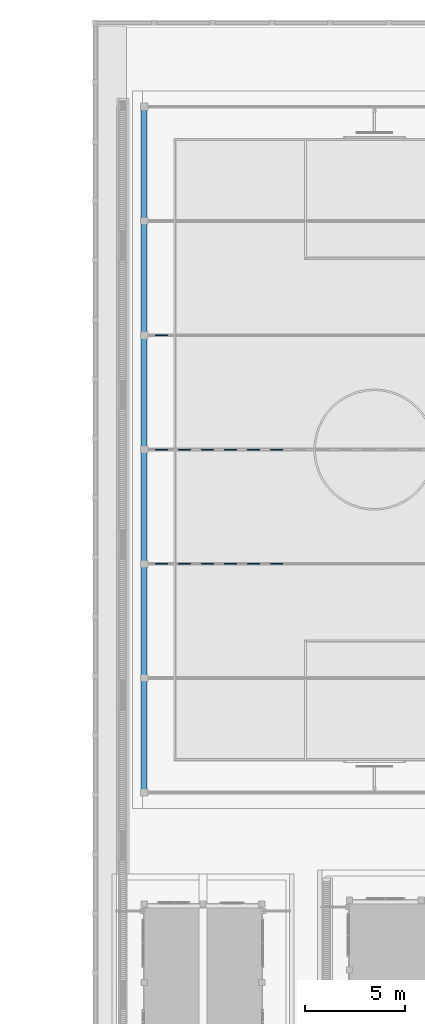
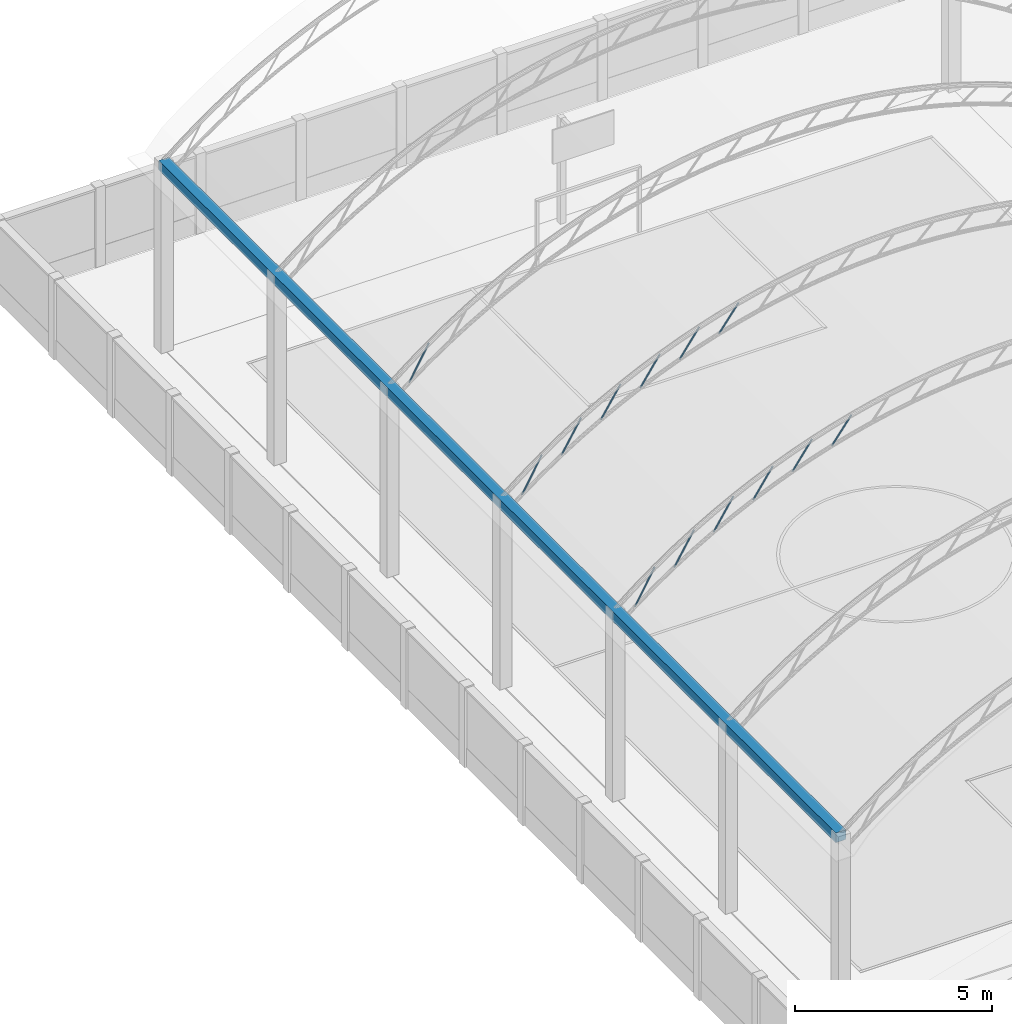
# One storey, part 19 of 151: 14 beams.
"""IFC2X3 building model written with IfcOpenShell, lengths in metres."""

from ifc_helpers import new_model, si_unit, origin, origin_with_axes, place, context, subcontext, project, spatial, faceted_brep, element, save


model = new_model("IFC2X3")

# Units and contexts
model_context = context("Model", 3, precision=1e-05, world=origin_with_axes())
body_context = subcontext(model_context, "Body", "Model", "MODEL_VIEW")
ifc_project = project(units=[si_unit("LENGTHUNIT", "METRE"), si_unit("AREAUNIT", "SQUARE_METRE"), si_unit("VOLUMEUNIT", "CUBIC_METRE"), si_unit("PLANEANGLEUNIT", "RADIAN")], contexts=[model_context])

# Site, building, storey
site_placement = place(None, origin_with_axes())
site = spatial("IfcSite", under=ifc_project, at=site_placement, Name="Predio Los Mangos - Morales, San Martín", CompositionType="ELEMENT")
building_placement = place(site_placement, origin())
building = spatial("IfcBuilding", under=site, at=building_placement, Name="Hogar de Refugio Temporal", CompositionType="ELEMENT")
storey_placement = place(building_placement, origin())
storey = spatial("IfcBuildingStorey", under=building, at=storey_placement, Name="NIVEL 1 (NPT +0.00)", CompositionType="ELEMENT", Elevation=0.0)

# Beams
beam_1_placement = place(storey_placement, origin())
element("IfcBeam", 1, at=beam_1_placement, inside=storey, Name="diag", ObjectType="Viga", context=body_context, shape_type="Brep", body=[
    faceted_brep([(4.0666, 104.0883, 5.8202), (4.6441, 104.0883, 6.8469), (4.655, 104.0917, 6.8408), (4.0775, 104.0917, 5.8141), (4.0586, 104.0792, 5.8247), (4.6361, 104.0792, 6.8514), (4.0557, 104.0667, 5.8263), (4.6332, 104.0667, 6.8531), (4.0586, 104.0542, 5.8247), (4.6361, 104.0542, 6.8514), (4.0666, 104.045, 5.8202), (4.6441, 104.045, 6.8469), (4.0775, 104.0417, 5.8141), (4.655, 104.0417, 6.8408), (4.0884, 104.045, 5.808), (4.6659, 104.045, 6.8347), (4.0964, 104.0542, 5.8035), (4.6739, 104.0542, 6.8302), (4.0993, 104.0667, 5.8018), (4.6768, 104.0667, 6.8286), (4.0964, 104.0792, 5.8035), (4.6739, 104.0792, 6.8302), (4.0884, 104.0883, 5.808), (4.6659, 104.0883, 6.8347), (4.0756, 104.0704, 5.8151), (4.0775, 104.071, 5.8141), (4.655, 104.071, 6.8408), (4.6531, 104.0704, 6.8419), (4.0743, 104.0688, 5.8159), (4.6518, 104.0688, 6.8426), (4.0738, 104.0667, 5.8162), (4.6513, 104.0667, 6.8429), (4.0743, 104.0645, 5.8159), (4.6518, 104.0645, 6.8426), (4.0756, 104.0629, 5.8151), (4.6531, 104.0629, 6.8419), (4.0775, 104.0624, 5.8141), (4.655, 104.0624, 6.8408), (4.0794, 104.0629, 5.813), (4.6569, 104.0629, 6.8398), (4.0807, 104.0645, 5.8123), (4.6582, 104.0645, 6.839), (4.0812, 104.0667, 5.812), (4.6587, 104.0667, 6.8387), (4.0807, 104.0688, 5.8123), (4.6582, 104.0688, 6.839), (4.0794, 104.0704, 5.813), (4.6569, 104.0704, 6.8398)], [[[0, 1, 2, 3]], [[4, 5, 1, 0]], [[6, 7, 5, 4]], [[8, 9, 7, 6]], [[10, 11, 9, 8]], [[12, 13, 11, 10]], [[14, 15, 13, 12]], [[16, 17, 15, 14]], [[18, 19, 17, 16]], [[20, 21, 19, 18]], [[22, 23, 21, 20]], [[3, 2, 23, 22]], [[24, 25, 26, 27]], [[28, 24, 27, 29]], [[30, 28, 29, 31]], [[32, 30, 31, 33]], [[34, 32, 33, 35]], [[36, 34, 35, 37]], [[38, 36, 37, 39]], [[40, 38, 39, 41]], [[42, 40, 41, 43]], [[44, 42, 43, 45]], [[46, 44, 45, 47]], [[25, 46, 47, 26]], [[12, 10, 34, 36]], [[22, 20, 44, 46]], [[5, 7, 31, 29]], [[15, 17, 41, 39]], [[2, 1, 27, 26]], [[8, 6, 30, 32]], [[18, 16, 40, 42]], [[11, 13, 37, 35]], [[21, 23, 47, 45]], [[4, 0, 24, 28]], [[14, 12, 36, 38]], [[3, 22, 46, 25]], [[7, 9, 33, 31]], [[17, 19, 43, 41]], [[23, 2, 26, 47]], [[10, 8, 32, 34]], [[20, 18, 42, 44]], [[1, 5, 29, 27]], [[13, 15, 39, 37]], [[6, 4, 28, 30]], [[16, 14, 38, 40]], [[0, 3, 25, 24]], [[9, 11, 35, 33]], [[19, 21, 45, 43]]]),
])
beam_2_placement = place(storey_placement, origin())
element("IfcBeam", 2, at=beam_2_placement, inside=storey, Name="diag", ObjectType="Viga", context=body_context, shape_type="Brep", body=[
    faceted_brep([(5.2218, 104.0883, 6.6398), (5.7993, 104.0883, 7.6007), (5.81, 104.0917, 7.5943), (5.2325, 104.0917, 6.6333), (5.2139, 104.0792, 6.6445), (5.7914, 104.0792, 7.6055), (5.2111, 104.0667, 6.6462), (5.7886, 104.0667, 7.6072), (5.2139, 104.0542, 6.6445), (5.7914, 104.0542, 7.6055), (5.2218, 104.045, 6.6398), (5.7993, 104.045, 7.6007), (5.2325, 104.0417, 6.6333), (5.81, 104.0417, 7.5943), (5.2432, 104.045, 6.6269), (5.8207, 104.045, 7.5879), (5.2511, 104.0542, 6.6222), (5.8286, 104.0542, 7.5832), (5.2539, 104.0667, 6.6205), (5.8314, 104.0667, 7.5814), (5.2511, 104.0792, 6.6222), (5.8286, 104.0792, 7.5832), (5.2432, 104.0883, 6.6269), (5.8207, 104.0883, 7.5879), (5.2307, 104.0704, 6.6345), (5.2325, 104.071, 6.6333), (5.81, 104.071, 7.5943), (5.8082, 104.0704, 7.5954), (5.2293, 104.0688, 6.6353), (5.8068, 104.0688, 7.5962), (5.2288, 104.0667, 6.6356), (5.8063, 104.0667, 7.5965), (5.2293, 104.0645, 6.6353), (5.8068, 104.0645, 7.5962), (5.2307, 104.0629, 6.6345), (5.8082, 104.0629, 7.5954), (5.2325, 104.0624, 6.6333), (5.81, 104.0624, 7.5943), (5.2343, 104.0629, 6.6322), (5.8118, 104.0629, 7.5932), (5.2357, 104.0645, 6.6314), (5.8132, 104.0645, 7.5924), (5.2362, 104.0667, 6.6311), (5.8137, 104.0667, 7.5921), (5.2357, 104.0688, 6.6314), (5.8132, 104.0688, 7.5924), (5.2343, 104.0704, 6.6322), (5.8118, 104.0704, 7.5932)], [[[0, 1, 2, 3]], [[4, 5, 1, 0]], [[6, 7, 5, 4]], [[8, 9, 7, 6]], [[10, 11, 9, 8]], [[12, 13, 11, 10]], [[14, 15, 13, 12]], [[16, 17, 15, 14]], [[18, 19, 17, 16]], [[20, 21, 19, 18]], [[22, 23, 21, 20]], [[3, 2, 23, 22]], [[24, 25, 26, 27]], [[28, 24, 27, 29]], [[30, 28, 29, 31]], [[32, 30, 31, 33]], [[34, 32, 33, 35]], [[36, 34, 35, 37]], [[38, 36, 37, 39]], [[40, 38, 39, 41]], [[42, 40, 41, 43]], [[44, 42, 43, 45]], [[46, 44, 45, 47]], [[25, 46, 47, 26]], [[12, 10, 34, 36]], [[22, 20, 44, 46]], [[5, 7, 31, 29]], [[15, 17, 41, 39]], [[2, 1, 27, 26]], [[8, 6, 30, 32]], [[18, 16, 40, 42]], [[11, 13, 37, 35]], [[21, 23, 47, 45]], [[4, 0, 24, 28]], [[14, 12, 36, 38]], [[3, 22, 46, 25]], [[7, 9, 33, 31]], [[17, 19, 43, 41]], [[23, 2, 26, 47]], [[10, 8, 32, 34]], [[20, 18, 42, 44]], [[1, 5, 29, 27]], [[13, 15, 39, 37]], [[6, 4, 28, 30]], [[16, 14, 38, 40]], [[0, 3, 25, 24]], [[9, 11, 35, 33]], [[19, 21, 45, 43]]]),
])
beam_3_placement = place(storey_placement, origin())
element("IfcBeam", 3, at=beam_3_placement, inside=storey, Name="diag", ObjectType="Viga", context=body_context, shape_type="Brep", body=[
    faceted_brep([(6.377, 104.0883, 7.3326), (6.9545, 104.0883, 8.2366), (6.965, 104.0917, 8.2298), (6.3875, 104.0917, 7.3259), (6.3693, 104.0792, 7.3375), (6.9468, 104.0792, 8.2415), (6.3664, 104.0667, 7.3393), (6.9439, 104.0667, 8.2433), (6.3693, 104.0542, 7.3375), (6.9468, 104.0542, 8.2415), (6.377, 104.045, 7.3326), (6.9545, 104.045, 8.2366), (6.3875, 104.0417, 7.3259), (6.965, 104.0417, 8.2298), (6.398, 104.045, 7.3191), (6.9755, 104.045, 8.2231), (6.4057, 104.0542, 7.3142), (6.9832, 104.0542, 8.2182), (6.4086, 104.0667, 7.3124), (6.9861, 104.0667, 8.2164), (6.4057, 104.0792, 7.3142), (6.9832, 104.0792, 8.2182), (6.398, 104.0883, 7.3191), (6.9755, 104.0883, 8.2231), (6.3857, 104.0704, 7.327), (6.3875, 104.071, 7.3259), (6.965, 104.071, 8.2298), (6.9632, 104.0704, 8.231), (6.3844, 104.0688, 7.3279), (6.9619, 104.0688, 8.2318), (6.3839, 104.0667, 7.3282), (6.9614, 104.0667, 8.2321), (6.3844, 104.0645, 7.3279), (6.9619, 104.0645, 8.2318), (6.3857, 104.0629, 7.327), (6.9632, 104.0629, 8.231), (6.3875, 104.0624, 7.3259), (6.965, 104.0624, 8.2298), (6.3893, 104.0629, 7.3247), (6.9668, 104.0629, 8.2287), (6.3906, 104.0645, 7.3239), (6.9681, 104.0645, 8.2278), (6.3911, 104.0667, 7.3235), (6.9686, 104.0667, 8.2275), (6.3906, 104.0688, 7.3239), (6.9681, 104.0688, 8.2278), (6.3893, 104.0704, 7.3247), (6.9668, 104.0704, 8.2287)], [[[0, 1, 2, 3]], [[4, 5, 1, 0]], [[6, 7, 5, 4]], [[8, 9, 7, 6]], [[10, 11, 9, 8]], [[12, 13, 11, 10]], [[14, 15, 13, 12]], [[16, 17, 15, 14]], [[18, 19, 17, 16]], [[20, 21, 19, 18]], [[22, 23, 21, 20]], [[3, 2, 23, 22]], [[24, 25, 26, 27]], [[28, 24, 27, 29]], [[30, 28, 29, 31]], [[32, 30, 31, 33]], [[34, 32, 33, 35]], [[36, 34, 35, 37]], [[38, 36, 37, 39]], [[40, 38, 39, 41]], [[42, 40, 41, 43]], [[44, 42, 43, 45]], [[46, 44, 45, 47]], [[25, 46, 47, 26]], [[12, 10, 34, 36]], [[22, 20, 44, 46]], [[5, 7, 31, 29]], [[15, 17, 41, 39]], [[2, 1, 27, 26]], [[8, 6, 30, 32]], [[18, 16, 40, 42]], [[11, 13, 37, 35]], [[21, 23, 47, 45]], [[4, 0, 24, 28]], [[14, 12, 36, 38]], [[3, 22, 46, 25]], [[7, 9, 33, 31]], [[17, 19, 43, 41]], [[23, 2, 26, 47]], [[10, 8, 32, 34]], [[20, 18, 42, 44]], [[1, 5, 29, 27]], [[13, 15, 39, 37]], [[6, 4, 28, 30]], [[16, 14, 38, 40]], [[0, 3, 25, 24]], [[9, 11, 35, 33]], [[19, 21, 45, 43]]]),
])
beam_4_placement = place(storey_placement, origin())
element("IfcBeam", 4, at=beam_4_placement, inside=storey, Name="diag", ObjectType="Viga", context=body_context, shape_type="Brep", body=[
    faceted_brep([(7.5321, 104.0883, 7.9148), (8.1096, 104.0883, 8.7679), (8.12, 104.0917, 8.7609), (7.5425, 104.0917, 7.9077), (7.5246, 104.0792, 7.9199), (8.1021, 104.0792, 8.7731), (7.5218, 104.0667, 7.9218), (8.0993, 104.0667, 8.7749), (7.5246, 104.0542, 7.9199), (8.1021, 104.0542, 8.7731), (7.5321, 104.045, 7.9148), (8.1096, 104.045, 8.7679), (7.5425, 104.0417, 7.9077), (8.12, 104.0417, 8.7609), (7.5529, 104.045, 7.9007), (8.1304, 104.045, 8.7539), (7.5604, 104.0542, 7.8956), (8.1379, 104.0542, 8.7488), (7.5632, 104.0667, 7.8937), (8.1407, 104.0667, 8.7469), (7.5604, 104.0792, 7.8956), (8.1379, 104.0792, 8.7488), (7.5529, 104.0883, 7.9007), (8.1304, 104.0883, 8.7539), (7.5407, 104.0704, 7.9089), (7.5425, 104.071, 7.9077), (8.12, 104.071, 8.7609), (8.1182, 104.0704, 8.7621), (7.5394, 104.0688, 7.9098), (8.1169, 104.0688, 8.763), (7.5389, 104.0667, 7.9102), (8.1164, 104.0667, 8.7633), (7.5394, 104.0645, 7.9098), (8.1169, 104.0645, 8.763), (7.5407, 104.0629, 7.9089), (8.1182, 104.0629, 8.7621), (7.5425, 104.0624, 7.9077), (8.12, 104.0624, 8.7609), (7.5443, 104.0629, 7.9065), (8.1218, 104.0629, 8.7597), (7.5456, 104.0645, 7.9057), (8.1231, 104.0645, 8.7588), (7.5461, 104.0667, 7.9053), (8.1236, 104.0667, 8.7585), (7.5456, 104.0688, 7.9057), (8.1231, 104.0688, 8.7588), (7.5443, 104.0704, 7.9065), (8.1218, 104.0704, 8.7597)], [[[0, 1, 2, 3]], [[4, 5, 1, 0]], [[6, 7, 5, 4]], [[8, 9, 7, 6]], [[10, 11, 9, 8]], [[12, 13, 11, 10]], [[14, 15, 13, 12]], [[16, 17, 15, 14]], [[18, 19, 17, 16]], [[20, 21, 19, 18]], [[22, 23, 21, 20]], [[3, 2, 23, 22]], [[24, 25, 26, 27]], [[28, 24, 27, 29]], [[30, 28, 29, 31]], [[32, 30, 31, 33]], [[34, 32, 33, 35]], [[36, 34, 35, 37]], [[38, 36, 37, 39]], [[40, 38, 39, 41]], [[42, 40, 41, 43]], [[44, 42, 43, 45]], [[46, 44, 45, 47]], [[25, 46, 47, 26]], [[12, 10, 34, 36]], [[22, 20, 44, 46]], [[5, 7, 31, 29]], [[15, 17, 41, 39]], [[2, 1, 27, 26]], [[8, 6, 30, 32]], [[18, 16, 40, 42]], [[11, 13, 37, 35]], [[21, 23, 47, 45]], [[4, 0, 24, 28]], [[14, 12, 36, 38]], [[3, 22, 46, 25]], [[7, 9, 33, 31]], [[17, 19, 43, 41]], [[23, 2, 26, 47]], [[10, 8, 32, 34]], [[20, 18, 42, 44]], [[1, 5, 29, 27]], [[13, 15, 39, 37]], [[6, 4, 28, 30]], [[16, 14, 38, 40]], [[0, 3, 25, 24]], [[9, 11, 35, 33]], [[19, 21, 45, 43]]]),
])
beam_5_placement = place(storey_placement, origin())
element("IfcBeam", 5, at=beam_5_placement, inside=storey, Name="diag", ObjectType="Viga", context=body_context, shape_type="Brep", body=[
    faceted_brep([(8.6873, 104.0883, 8.3978), (9.2648, 104.0883, 9.2047), (9.275, 104.0917, 9.1974), (8.6975, 104.0917, 8.3905), (8.6799, 104.0792, 8.4031), (9.2574, 104.0792, 9.21), (8.6772, 104.0667, 8.405), (9.2547, 104.0667, 9.2119), (8.6799, 104.0542, 8.4031), (9.2574, 104.0542, 9.21), (8.6873, 104.045, 8.3978), (9.2648, 104.045, 9.2047), (8.6975, 104.0417, 8.3905), (9.275, 104.0417, 9.1974), (8.7077, 104.045, 8.3832), (9.2852, 104.045, 9.1901), (8.7151, 104.0542, 8.3779), (9.2926, 104.0542, 9.1848), (8.7178, 104.0667, 8.3759), (9.2953, 104.0667, 9.1828), (8.7151, 104.0792, 8.3779), (9.2926, 104.0792, 9.1848), (8.7077, 104.0883, 8.3832), (9.2852, 104.0883, 9.1901), (8.6958, 104.0704, 8.3917), (8.6975, 104.071, 8.3905), (9.275, 104.071, 9.1974), (9.2733, 104.0704, 9.1986), (8.6945, 104.0688, 8.3927), (9.272, 104.0688, 9.1996), (8.694, 104.0667, 8.393), (9.2715, 104.0667, 9.1999), (8.6945, 104.0645, 8.3927), (9.272, 104.0645, 9.1996), (8.6958, 104.0629, 8.3917), (9.2733, 104.0629, 9.1986), (8.6975, 104.0624, 8.3905), (9.275, 104.0624, 9.1974), (8.6992, 104.0629, 8.3892), (9.2767, 104.0629, 9.1961), (8.7005, 104.0645, 8.3883), (9.278, 104.0645, 9.1952), (8.701, 104.0667, 8.388), (9.2785, 104.0667, 9.1949), (8.7005, 104.0688, 8.3883), (9.278, 104.0688, 9.1952), (8.6992, 104.0704, 8.3892), (9.2767, 104.0704, 9.1961)], [[[0, 1, 2, 3]], [[4, 5, 1, 0]], [[6, 7, 5, 4]], [[8, 9, 7, 6]], [[10, 11, 9, 8]], [[12, 13, 11, 10]], [[14, 15, 13, 12]], [[16, 17, 15, 14]], [[18, 19, 17, 16]], [[20, 21, 19, 18]], [[22, 23, 21, 20]], [[3, 2, 23, 22]], [[24, 25, 26, 27]], [[28, 24, 27, 29]], [[30, 28, 29, 31]], [[32, 30, 31, 33]], [[34, 32, 33, 35]], [[36, 34, 35, 37]], [[38, 36, 37, 39]], [[40, 38, 39, 41]], [[42, 40, 41, 43]], [[44, 42, 43, 45]], [[46, 44, 45, 47]], [[25, 46, 47, 26]], [[6, 4, 28, 30]], [[16, 14, 38, 40]], [[0, 3, 25, 24]], [[9, 11, 35, 33]], [[19, 21, 45, 43]], [[12, 10, 34, 36]], [[22, 20, 44, 46]], [[5, 7, 31, 29]], [[15, 17, 41, 39]], [[2, 1, 27, 26]], [[8, 6, 30, 32]], [[18, 16, 40, 42]], [[11, 13, 37, 35]], [[21, 23, 47, 45]], [[4, 0, 24, 28]], [[14, 12, 36, 38]], [[3, 22, 46, 25]], [[7, 9, 33, 31]], [[17, 19, 43, 41]], [[23, 2, 26, 47]], [[10, 8, 32, 34]], [[20, 18, 42, 44]], [[1, 5, 29, 27]], [[13, 15, 39, 37]]]),
])
beam_6_placement = place(storey_placement, origin())
element("IfcBeam", 6, at=beam_6_placement, inside=storey, Name="diag", ObjectType="Viga", context=body_context, shape_type="Brep", body=[
    faceted_brep([(9.8425, 104.0883, 8.79), (10.42, 104.0883, 9.5539), (10.43, 104.0917, 9.5463), (9.8525, 104.0917, 8.7824), (9.8352, 104.0792, 8.7955), (10.4127, 104.0792, 9.5594), (9.8326, 104.0667, 8.7975), (10.4101, 104.0667, 9.5614), (9.8352, 104.0542, 8.7955), (10.4127, 104.0542, 9.5594), (9.8425, 104.045, 8.79), (10.42, 104.045, 9.5539), (9.8525, 104.0417, 8.7824), (10.43, 104.0417, 9.5463), (9.8625, 104.045, 8.7749), (10.44, 104.045, 9.5388), (9.8698, 104.0542, 8.7694), (10.4473, 104.0542, 9.5333), (9.8724, 104.0667, 8.7674), (10.4499, 104.0667, 9.5313), (9.8698, 104.0792, 8.7694), (10.4473, 104.0792, 9.5333), (9.8625, 104.0883, 8.7749), (10.44, 104.0883, 9.5388), (9.8508, 104.0704, 8.7837), (9.8525, 104.071, 8.7824), (10.43, 104.071, 9.5463), (10.4283, 104.0704, 9.5476), (9.8495, 104.0688, 8.7847), (10.427, 104.0688, 9.5486), (9.8491, 104.0667, 8.785), (10.4266, 104.0667, 9.5489), (9.8495, 104.0645, 8.7847), (10.427, 104.0645, 9.5486), (9.8508, 104.0629, 8.7837), (10.4283, 104.0629, 9.5476), (9.8525, 104.0624, 8.7824), (10.43, 104.0624, 9.5463), (9.8542, 104.0629, 8.7812), (10.4317, 104.0629, 9.5451), (9.8555, 104.0645, 8.7802), (10.433, 104.0645, 9.5441), (9.8559, 104.0667, 8.7799), (10.4334, 104.0667, 9.5438), (9.8555, 104.0688, 8.7802), (10.433, 104.0688, 9.5441), (9.8542, 104.0704, 8.7812), (10.4317, 104.0704, 9.5451)], [[[0, 1, 2, 3]], [[4, 5, 1, 0]], [[6, 7, 5, 4]], [[8, 9, 7, 6]], [[10, 11, 9, 8]], [[12, 13, 11, 10]], [[14, 15, 13, 12]], [[16, 17, 15, 14]], [[18, 19, 17, 16]], [[20, 21, 19, 18]], [[22, 23, 21, 20]], [[3, 2, 23, 22]], [[24, 25, 26, 27]], [[28, 24, 27, 29]], [[30, 28, 29, 31]], [[32, 30, 31, 33]], [[34, 32, 33, 35]], [[36, 34, 35, 37]], [[38, 36, 37, 39]], [[40, 38, 39, 41]], [[42, 40, 41, 43]], [[44, 42, 43, 45]], [[46, 44, 45, 47]], [[25, 46, 47, 26]], [[12, 10, 34, 36]], [[22, 20, 44, 46]], [[5, 7, 31, 29]], [[15, 17, 41, 39]], [[2, 1, 27, 26]], [[8, 6, 30, 32]], [[18, 16, 40, 42]], [[11, 13, 37, 35]], [[21, 23, 47, 45]], [[4, 0, 24, 28]], [[14, 12, 36, 38]], [[3, 22, 46, 25]], [[7, 9, 33, 31]], [[17, 19, 43, 41]], [[23, 2, 26, 47]], [[10, 8, 32, 34]], [[20, 18, 42, 44]], [[1, 5, 29, 27]], [[13, 15, 39, 37]], [[6, 4, 28, 30]], [[16, 14, 38, 40]], [[0, 3, 25, 24]], [[9, 11, 35, 33]], [[19, 21, 45, 43]]]),
])
beam_7_placement = place(storey_placement, origin())
element("IfcBeam", 7, at=beam_7_placement, inside=storey, Name="diag", ObjectType="Viga", context=body_context, shape_type="Brep", body=[
    faceted_brep([(4.0666, 109.8217, 5.8202), (4.6441, 109.8217, 6.8469), (4.655, 109.825, 6.8408), (4.0775, 109.825, 5.8141), (4.0586, 109.8125, 5.8247), (4.6361, 109.8125, 6.8514), (4.0557, 109.8, 5.8263), (4.6332, 109.8, 6.8531), (4.0586, 109.7875, 5.8247), (4.6361, 109.7875, 6.8514), (4.0666, 109.7784, 5.8202), (4.6441, 109.7784, 6.8469), (4.0775, 109.775, 5.8141), (4.655, 109.775, 6.8408), (4.0884, 109.7784, 5.808), (4.6659, 109.7784, 6.8347), (4.0964, 109.7875, 5.8035), (4.6739, 109.7875, 6.8302), (4.0993, 109.8, 5.8018), (4.6768, 109.8, 6.8286), (4.0964, 109.8125, 5.8035), (4.6739, 109.8125, 6.8302), (4.0884, 109.8217, 5.808), (4.6659, 109.8217, 6.8347), (4.0756, 109.8037, 5.8151), (4.0775, 109.8043, 5.8141), (4.655, 109.8043, 6.8408), (4.6531, 109.8037, 6.8419), (4.0743, 109.8021, 5.8159), (4.6518, 109.8021, 6.8426), (4.0738, 109.8, 5.8162), (4.6513, 109.8, 6.8429), (4.0743, 109.7979, 5.8159), (4.6518, 109.7979, 6.8426), (4.0756, 109.7963, 5.8151), (4.6531, 109.7963, 6.8419), (4.0775, 109.7957, 5.8141), (4.655, 109.7957, 6.8408), (4.0794, 109.7963, 5.813), (4.6569, 109.7963, 6.8398), (4.0807, 109.7979, 5.8123), (4.6582, 109.7979, 6.839), (4.0812, 109.8, 5.812), (4.6587, 109.8, 6.8387), (4.0807, 109.8021, 5.8123), (4.6582, 109.8021, 6.839), (4.0794, 109.8037, 5.813), (4.6569, 109.8037, 6.8398)], [[[0, 1, 2, 3]], [[4, 5, 1, 0]], [[6, 7, 5, 4]], [[8, 9, 7, 6]], [[10, 11, 9, 8]], [[12, 13, 11, 10]], [[14, 15, 13, 12]], [[16, 17, 15, 14]], [[18, 19, 17, 16]], [[20, 21, 19, 18]], [[22, 23, 21, 20]], [[3, 2, 23, 22]], [[24, 25, 26, 27]], [[28, 24, 27, 29]], [[30, 28, 29, 31]], [[32, 30, 31, 33]], [[34, 32, 33, 35]], [[36, 34, 35, 37]], [[38, 36, 37, 39]], [[40, 38, 39, 41]], [[42, 40, 41, 43]], [[44, 42, 43, 45]], [[46, 44, 45, 47]], [[25, 46, 47, 26]], [[10, 8, 32, 34]], [[20, 18, 42, 44]], [[1, 5, 29, 27]], [[13, 15, 39, 37]], [[6, 4, 28, 30]], [[16, 14, 38, 40]], [[0, 3, 25, 24]], [[9, 11, 35, 33]], [[19, 21, 45, 43]], [[12, 10, 34, 36]], [[22, 20, 44, 46]], [[5, 7, 31, 29]], [[15, 17, 41, 39]], [[2, 1, 27, 26]], [[8, 6, 30, 32]], [[18, 16, 40, 42]], [[11, 13, 37, 35]], [[21, 23, 47, 45]], [[4, 0, 24, 28]], [[14, 12, 36, 38]], [[3, 22, 46, 25]], [[7, 9, 33, 31]], [[17, 19, 43, 41]], [[23, 2, 26, 47]]]),
])
beam_8_placement = place(storey_placement, origin())
element("IfcBeam", 8, at=beam_8_placement, inside=storey, Name="diag", ObjectType="Viga", context=body_context, shape_type="Brep", body=[
    faceted_brep([(5.2218, 109.8217, 6.6398), (5.7993, 109.8217, 7.6007), (5.81, 109.825, 7.5943), (5.2325, 109.825, 6.6333), (5.2139, 109.8125, 6.6445), (5.7914, 109.8125, 7.6055), (5.2111, 109.8, 6.6462), (5.7886, 109.8, 7.6072), (5.2139, 109.7875, 6.6445), (5.7914, 109.7875, 7.6055), (5.2218, 109.7784, 6.6398), (5.7993, 109.7784, 7.6007), (5.2325, 109.775, 6.6333), (5.81, 109.775, 7.5943), (5.2432, 109.7784, 6.6269), (5.8207, 109.7784, 7.5879), (5.2511, 109.7875, 6.6222), (5.8286, 109.7875, 7.5832), (5.2539, 109.8, 6.6205), (5.8314, 109.8, 7.5814), (5.2511, 109.8125, 6.6222), (5.8286, 109.8125, 7.5832), (5.2432, 109.8217, 6.6269), (5.8207, 109.8217, 7.5879), (5.2307, 109.8037, 6.6345), (5.2325, 109.8043, 6.6333), (5.81, 109.8043, 7.5943), (5.8082, 109.8037, 7.5954), (5.2293, 109.8021, 6.6353), (5.8068, 109.8021, 7.5962), (5.2288, 109.8, 6.6356), (5.8063, 109.8, 7.5965), (5.2293, 109.7979, 6.6353), (5.8068, 109.7979, 7.5962), (5.2307, 109.7963, 6.6345), (5.8082, 109.7963, 7.5954), (5.2325, 109.7957, 6.6333), (5.81, 109.7957, 7.5943), (5.2343, 109.7963, 6.6322), (5.8118, 109.7963, 7.5932), (5.2357, 109.7979, 6.6314), (5.8132, 109.7979, 7.5924), (5.2362, 109.8, 6.6311), (5.8137, 109.8, 7.5921), (5.2357, 109.8021, 6.6314), (5.8132, 109.8021, 7.5924), (5.2343, 109.8037, 6.6322), (5.8118, 109.8037, 7.5932)], [[[0, 1, 2, 3]], [[4, 5, 1, 0]], [[6, 7, 5, 4]], [[8, 9, 7, 6]], [[10, 11, 9, 8]], [[12, 13, 11, 10]], [[14, 15, 13, 12]], [[16, 17, 15, 14]], [[18, 19, 17, 16]], [[20, 21, 19, 18]], [[22, 23, 21, 20]], [[3, 2, 23, 22]], [[24, 25, 26, 27]], [[28, 24, 27, 29]], [[30, 28, 29, 31]], [[32, 30, 31, 33]], [[34, 32, 33, 35]], [[36, 34, 35, 37]], [[38, 36, 37, 39]], [[40, 38, 39, 41]], [[42, 40, 41, 43]], [[44, 42, 43, 45]], [[46, 44, 45, 47]], [[25, 46, 47, 26]], [[10, 8, 32, 34]], [[20, 18, 42, 44]], [[1, 5, 29, 27]], [[13, 15, 39, 37]], [[6, 4, 28, 30]], [[16, 14, 38, 40]], [[0, 3, 25, 24]], [[9, 11, 35, 33]], [[19, 21, 45, 43]], [[12, 10, 34, 36]], [[22, 20, 44, 46]], [[5, 7, 31, 29]], [[15, 17, 41, 39]], [[2, 1, 27, 26]], [[8, 6, 30, 32]], [[18, 16, 40, 42]], [[11, 13, 37, 35]], [[21, 23, 47, 45]], [[4, 0, 24, 28]], [[14, 12, 36, 38]], [[3, 22, 46, 25]], [[7, 9, 33, 31]], [[17, 19, 43, 41]], [[23, 2, 26, 47]]]),
])
beam_9_placement = place(storey_placement, origin())
element("IfcBeam", 9, at=beam_9_placement, inside=storey, Name="diag", ObjectType="Viga", context=body_context, shape_type="Brep", body=[
    faceted_brep([(6.377, 109.8217, 7.3326), (6.9545, 109.8217, 8.2366), (6.965, 109.825, 8.2298), (6.3875, 109.825, 7.3259), (6.3693, 109.8125, 7.3375), (6.9468, 109.8125, 8.2415), (6.3664, 109.8, 7.3393), (6.9439, 109.8, 8.2433), (6.3693, 109.7875, 7.3375), (6.9468, 109.7875, 8.2415), (6.377, 109.7784, 7.3326), (6.9545, 109.7784, 8.2366), (6.3875, 109.775, 7.3259), (6.965, 109.775, 8.2298), (6.398, 109.7784, 7.3191), (6.9755, 109.7784, 8.2231), (6.4057, 109.7875, 7.3142), (6.9832, 109.7875, 8.2182), (6.4086, 109.8, 7.3124), (6.9861, 109.8, 8.2164), (6.4057, 109.8125, 7.3142), (6.9832, 109.8125, 8.2182), (6.398, 109.8217, 7.3191), (6.9755, 109.8217, 8.2231), (6.3857, 109.8037, 7.327), (6.3875, 109.8043, 7.3259), (6.965, 109.8043, 8.2298), (6.9632, 109.8037, 8.231), (6.3844, 109.8021, 7.3279), (6.9619, 109.8021, 8.2318), (6.3839, 109.8, 7.3282), (6.9614, 109.8, 8.2321), (6.3844, 109.7979, 7.3279), (6.9619, 109.7979, 8.2318), (6.3857, 109.7963, 7.327), (6.9632, 109.7963, 8.231), (6.3875, 109.7957, 7.3259), (6.965, 109.7957, 8.2298), (6.3893, 109.7963, 7.3247), (6.9668, 109.7963, 8.2287), (6.3906, 109.7979, 7.3239), (6.9681, 109.7979, 8.2278), (6.3911, 109.8, 7.3235), (6.9686, 109.8, 8.2275), (6.3906, 109.8021, 7.3239), (6.9681, 109.8021, 8.2278), (6.3893, 109.8037, 7.3247), (6.9668, 109.8037, 8.2287)], [[[0, 1, 2, 3]], [[4, 5, 1, 0]], [[6, 7, 5, 4]], [[8, 9, 7, 6]], [[10, 11, 9, 8]], [[12, 13, 11, 10]], [[14, 15, 13, 12]], [[16, 17, 15, 14]], [[18, 19, 17, 16]], [[20, 21, 19, 18]], [[22, 23, 21, 20]], [[3, 2, 23, 22]], [[24, 25, 26, 27]], [[28, 24, 27, 29]], [[30, 28, 29, 31]], [[32, 30, 31, 33]], [[34, 32, 33, 35]], [[36, 34, 35, 37]], [[38, 36, 37, 39]], [[40, 38, 39, 41]], [[42, 40, 41, 43]], [[44, 42, 43, 45]], [[46, 44, 45, 47]], [[25, 46, 47, 26]], [[10, 8, 32, 34]], [[20, 18, 42, 44]], [[1, 5, 29, 27]], [[13, 15, 39, 37]], [[6, 4, 28, 30]], [[16, 14, 38, 40]], [[0, 3, 25, 24]], [[9, 11, 35, 33]], [[19, 21, 45, 43]], [[12, 10, 34, 36]], [[22, 20, 44, 46]], [[5, 7, 31, 29]], [[15, 17, 41, 39]], [[2, 1, 27, 26]], [[8, 6, 30, 32]], [[18, 16, 40, 42]], [[11, 13, 37, 35]], [[21, 23, 47, 45]], [[4, 0, 24, 28]], [[14, 12, 36, 38]], [[3, 22, 46, 25]], [[7, 9, 33, 31]], [[17, 19, 43, 41]], [[23, 2, 26, 47]]]),
])
beam_10_placement = place(storey_placement, origin())
element("IfcBeam", 10, at=beam_10_placement, inside=storey, Name="diag", ObjectType="Viga", context=body_context, shape_type="Brep", body=[
    faceted_brep([(7.5321, 109.8217, 7.9148), (8.1096, 109.8217, 8.7679), (8.12, 109.825, 8.7609), (7.5425, 109.825, 7.9077), (7.5246, 109.8125, 7.9199), (8.1021, 109.8125, 8.7731), (7.5218, 109.8, 7.9218), (8.0993, 109.8, 8.7749), (7.5246, 109.7875, 7.9199), (8.1021, 109.7875, 8.7731), (7.5321, 109.7784, 7.9148), (8.1096, 109.7784, 8.7679), (7.5425, 109.775, 7.9077), (8.12, 109.775, 8.7609), (7.5529, 109.7784, 7.9007), (8.1304, 109.7784, 8.7539), (7.5604, 109.7875, 7.8956), (8.1379, 109.7875, 8.7488), (7.5632, 109.8, 7.8937), (8.1407, 109.8, 8.7469), (7.5604, 109.8125, 7.8956), (8.1379, 109.8125, 8.7488), (7.5529, 109.8217, 7.9007), (8.1304, 109.8217, 8.7539), (7.5407, 109.8037, 7.9089), (7.5425, 109.8043, 7.9077), (8.12, 109.8043, 8.7609), (8.1182, 109.8037, 8.7621), (7.5394, 109.8021, 7.9098), (8.1169, 109.8021, 8.763), (7.5389, 109.8, 7.9102), (8.1164, 109.8, 8.7633), (7.5394, 109.7979, 7.9098), (8.1169, 109.7979, 8.763), (7.5407, 109.7963, 7.9089), (8.1182, 109.7963, 8.7621), (7.5425, 109.7957, 7.9077), (8.12, 109.7957, 8.7609), (7.5443, 109.7963, 7.9065), (8.1218, 109.7963, 8.7597), (7.5456, 109.7979, 7.9057), (8.1231, 109.7979, 8.7588), (7.5461, 109.8, 7.9053), (8.1236, 109.8, 8.7585), (7.5456, 109.8021, 7.9057), (8.1231, 109.8021, 8.7588), (7.5443, 109.8037, 7.9065), (8.1218, 109.8037, 8.7597)], [[[0, 1, 2, 3]], [[4, 5, 1, 0]], [[6, 7, 5, 4]], [[8, 9, 7, 6]], [[10, 11, 9, 8]], [[12, 13, 11, 10]], [[14, 15, 13, 12]], [[16, 17, 15, 14]], [[18, 19, 17, 16]], [[20, 21, 19, 18]], [[22, 23, 21, 20]], [[3, 2, 23, 22]], [[24, 25, 26, 27]], [[28, 24, 27, 29]], [[30, 28, 29, 31]], [[32, 30, 31, 33]], [[34, 32, 33, 35]], [[36, 34, 35, 37]], [[38, 36, 37, 39]], [[40, 38, 39, 41]], [[42, 40, 41, 43]], [[44, 42, 43, 45]], [[46, 44, 45, 47]], [[25, 46, 47, 26]], [[10, 8, 32, 34]], [[20, 18, 42, 44]], [[1, 5, 29, 27]], [[13, 15, 39, 37]], [[6, 4, 28, 30]], [[16, 14, 38, 40]], [[0, 3, 25, 24]], [[9, 11, 35, 33]], [[19, 21, 45, 43]], [[12, 10, 34, 36]], [[22, 20, 44, 46]], [[5, 7, 31, 29]], [[15, 17, 41, 39]], [[2, 1, 27, 26]], [[8, 6, 30, 32]], [[18, 16, 40, 42]], [[11, 13, 37, 35]], [[21, 23, 47, 45]], [[4, 0, 24, 28]], [[14, 12, 36, 38]], [[3, 22, 46, 25]], [[7, 9, 33, 31]], [[17, 19, 43, 41]], [[23, 2, 26, 47]]]),
])
beam_11_placement = place(storey_placement, origin())
element("IfcBeam", 11, at=beam_11_placement, inside=storey, Name="diag", ObjectType="Viga", context=body_context, shape_type="Brep", body=[
    faceted_brep([(8.6873, 109.8217, 8.3978), (9.2648, 109.8217, 9.2047), (9.275, 109.825, 9.1974), (8.6975, 109.825, 8.3905), (8.6799, 109.8125, 8.4031), (9.2574, 109.8125, 9.21), (8.6772, 109.8, 8.405), (9.2547, 109.8, 9.2119), (8.6799, 109.7875, 8.4031), (9.2574, 109.7875, 9.21), (8.6873, 109.7784, 8.3978), (9.2648, 109.7784, 9.2047), (8.6975, 109.775, 8.3905), (9.275, 109.775, 9.1974), (8.7077, 109.7784, 8.3832), (9.2852, 109.7784, 9.1901), (8.7151, 109.7875, 8.3779), (9.2926, 109.7875, 9.1848), (8.7178, 109.8, 8.3759), (9.2953, 109.8, 9.1828), (8.7151, 109.8125, 8.3779), (9.2926, 109.8125, 9.1848), (8.7077, 109.8217, 8.3832), (9.2852, 109.8217, 9.1901), (8.6958, 109.8037, 8.3917), (8.6975, 109.8043, 8.3905), (9.275, 109.8043, 9.1974), (9.2733, 109.8037, 9.1986), (8.6945, 109.8021, 8.3927), (9.272, 109.8021, 9.1996), (8.694, 109.8, 8.393), (9.2715, 109.8, 9.1999), (8.6945, 109.7979, 8.3927), (9.272, 109.7979, 9.1996), (8.6958, 109.7963, 8.3917), (9.2733, 109.7963, 9.1986), (8.6975, 109.7957, 8.3905), (9.275, 109.7957, 9.1974), (8.6992, 109.7963, 8.3892), (9.2767, 109.7963, 9.1961), (8.7005, 109.7979, 8.3883), (9.278, 109.7979, 9.1952), (8.701, 109.8, 8.388), (9.2785, 109.8, 9.1949), (8.7005, 109.8021, 8.3883), (9.278, 109.8021, 9.1952), (8.6992, 109.8037, 8.3892), (9.2767, 109.8037, 9.1961)], [[[0, 1, 2, 3]], [[4, 5, 1, 0]], [[6, 7, 5, 4]], [[8, 9, 7, 6]], [[10, 11, 9, 8]], [[12, 13, 11, 10]], [[14, 15, 13, 12]], [[16, 17, 15, 14]], [[18, 19, 17, 16]], [[20, 21, 19, 18]], [[22, 23, 21, 20]], [[3, 2, 23, 22]], [[24, 25, 26, 27]], [[28, 24, 27, 29]], [[30, 28, 29, 31]], [[32, 30, 31, 33]], [[34, 32, 33, 35]], [[36, 34, 35, 37]], [[38, 36, 37, 39]], [[40, 38, 39, 41]], [[42, 40, 41, 43]], [[44, 42, 43, 45]], [[46, 44, 45, 47]], [[25, 46, 47, 26]], [[21, 23, 47, 45]], [[4, 0, 24, 28]], [[14, 12, 36, 38]], [[3, 22, 46, 25]], [[7, 9, 33, 31]], [[17, 19, 43, 41]], [[23, 2, 26, 47]], [[10, 8, 32, 34]], [[20, 18, 42, 44]], [[1, 5, 29, 27]], [[13, 15, 39, 37]], [[6, 4, 28, 30]], [[16, 14, 38, 40]], [[0, 3, 25, 24]], [[9, 11, 35, 33]], [[19, 21, 45, 43]], [[12, 10, 34, 36]], [[22, 20, 44, 46]], [[5, 7, 31, 29]], [[15, 17, 41, 39]], [[2, 1, 27, 26]], [[8, 6, 30, 32]], [[18, 16, 40, 42]], [[11, 13, 37, 35]]]),
])
beam_12_placement = place(storey_placement, origin())
element("IfcBeam", 12, at=beam_12_placement, inside=storey, Name="diag", ObjectType="Viga", context=body_context, shape_type="Brep", body=[
    faceted_brep([(9.8425, 109.8217, 8.79), (10.42, 109.8217, 9.5539), (10.43, 109.825, 9.5463), (9.8525, 109.825, 8.7824), (9.8352, 109.8125, 8.7955), (10.4127, 109.8125, 9.5594), (9.8326, 109.8, 8.7975), (10.4101, 109.8, 9.5614), (9.8352, 109.7875, 8.7955), (10.4127, 109.7875, 9.5594), (9.8425, 109.7784, 8.79), (10.42, 109.7784, 9.5539), (9.8525, 109.775, 8.7824), (10.43, 109.775, 9.5463), (9.8625, 109.7784, 8.7749), (10.44, 109.7784, 9.5388), (9.8698, 109.7875, 8.7694), (10.4473, 109.7875, 9.5333), (9.8724, 109.8, 8.7674), (10.4499, 109.8, 9.5313), (9.8698, 109.8125, 8.7694), (10.4473, 109.8125, 9.5333), (9.8625, 109.8217, 8.7749), (10.44, 109.8217, 9.5388), (9.8508, 109.8037, 8.7837), (9.8525, 109.8043, 8.7824), (10.43, 109.8043, 9.5463), (10.4283, 109.8037, 9.5476), (9.8495, 109.8021, 8.7847), (10.427, 109.8021, 9.5486), (9.8491, 109.8, 8.785), (10.4266, 109.8, 9.5489), (9.8495, 109.7979, 8.7847), (10.427, 109.7979, 9.5486), (9.8508, 109.7963, 8.7837), (10.4283, 109.7963, 9.5476), (9.8525, 109.7957, 8.7824), (10.43, 109.7957, 9.5463), (9.8542, 109.7963, 8.7812), (10.4317, 109.7963, 9.5451), (9.8555, 109.7979, 8.7802), (10.433, 109.7979, 9.5441), (9.8559, 109.8, 8.7799), (10.4334, 109.8, 9.5438), (9.8555, 109.8021, 8.7802), (10.433, 109.8021, 9.5441), (9.8542, 109.8037, 8.7812), (10.4317, 109.8037, 9.5451)], [[[0, 1, 2, 3]], [[4, 5, 1, 0]], [[6, 7, 5, 4]], [[8, 9, 7, 6]], [[10, 11, 9, 8]], [[12, 13, 11, 10]], [[14, 15, 13, 12]], [[16, 17, 15, 14]], [[18, 19, 17, 16]], [[20, 21, 19, 18]], [[22, 23, 21, 20]], [[3, 2, 23, 22]], [[24, 25, 26, 27]], [[28, 24, 27, 29]], [[30, 28, 29, 31]], [[32, 30, 31, 33]], [[34, 32, 33, 35]], [[36, 34, 35, 37]], [[38, 36, 37, 39]], [[40, 38, 39, 41]], [[42, 40, 41, 43]], [[44, 42, 43, 45]], [[46, 44, 45, 47]], [[25, 46, 47, 26]], [[10, 8, 32, 34]], [[20, 18, 42, 44]], [[1, 5, 29, 27]], [[13, 15, 39, 37]], [[6, 4, 28, 30]], [[16, 14, 38, 40]], [[0, 3, 25, 24]], [[9, 11, 35, 33]], [[19, 21, 45, 43]], [[12, 10, 34, 36]], [[22, 20, 44, 46]], [[5, 7, 31, 29]], [[15, 17, 41, 39]], [[2, 1, 27, 26]], [[8, 6, 30, 32]], [[18, 16, 40, 42]], [[11, 13, 37, 35]], [[21, 23, 47, 45]], [[4, 0, 24, 28]], [[14, 12, 36, 38]], [[3, 22, 46, 25]], [[7, 9, 33, 31]], [[17, 19, 43, 41]], [[23, 2, 26, 47]]]),
])
beam_13_placement = place(storey_placement, origin())
element("IfcBeam", 13, at=beam_13_placement, inside=storey, Name="diag", ObjectType="Viga", context=body_context, shape_type="Brep", body=[
    faceted_brep([(4.0666, 115.555, 5.8202), (4.6441, 115.555, 6.8469), (4.655, 115.5583, 6.8408), (4.0775, 115.5583, 5.8141), (4.0586, 115.5458, 5.8247), (4.6361, 115.5458, 6.8514), (4.0557, 115.5333, 5.8263), (4.6332, 115.5333, 6.8531), (4.0586, 115.5208, 5.8247), (4.6361, 115.5208, 6.8514), (4.0666, 115.5117, 5.8202), (4.6441, 115.5117, 6.8469), (4.0775, 115.5083, 5.8141), (4.655, 115.5083, 6.8408), (4.0884, 115.5117, 5.808), (4.6659, 115.5117, 6.8347), (4.0964, 115.5208, 5.8035), (4.6739, 115.5208, 6.8302), (4.0993, 115.5333, 5.8018), (4.6768, 115.5333, 6.8286), (4.0964, 115.5458, 5.8035), (4.6739, 115.5458, 6.8302), (4.0884, 115.555, 5.808), (4.6659, 115.555, 6.8347), (4.0756, 115.5371, 5.8151), (4.0775, 115.5376, 5.8141), (4.655, 115.5376, 6.8408), (4.6531, 115.5371, 6.8419), (4.0743, 115.5355, 5.8159), (4.6518, 115.5355, 6.8426), (4.0738, 115.5333, 5.8162), (4.6513, 115.5333, 6.8429), (4.0743, 115.5312, 5.8159), (4.6518, 115.5312, 6.8426), (4.0756, 115.5296, 5.8151), (4.6531, 115.5296, 6.8419), (4.0775, 115.529, 5.8141), (4.655, 115.529, 6.8408), (4.0794, 115.5296, 5.813), (4.6569, 115.5296, 6.8398), (4.0807, 115.5312, 5.8123), (4.6582, 115.5312, 6.839), (4.0812, 115.5333, 5.812), (4.6587, 115.5333, 6.8387), (4.0807, 115.5355, 5.8123), (4.6582, 115.5355, 6.839), (4.0794, 115.5371, 5.813), (4.6569, 115.5371, 6.8398)], [[[0, 1, 2, 3]], [[4, 5, 1, 0]], [[6, 7, 5, 4]], [[8, 9, 7, 6]], [[10, 11, 9, 8]], [[12, 13, 11, 10]], [[14, 15, 13, 12]], [[16, 17, 15, 14]], [[18, 19, 17, 16]], [[20, 21, 19, 18]], [[22, 23, 21, 20]], [[3, 2, 23, 22]], [[24, 25, 26, 27]], [[28, 24, 27, 29]], [[30, 28, 29, 31]], [[32, 30, 31, 33]], [[34, 32, 33, 35]], [[36, 34, 35, 37]], [[38, 36, 37, 39]], [[40, 38, 39, 41]], [[42, 40, 41, 43]], [[44, 42, 43, 45]], [[46, 44, 45, 47]], [[25, 46, 47, 26]], [[4, 0, 24, 28]], [[14, 12, 36, 38]], [[3, 22, 46, 25]], [[7, 9, 33, 31]], [[17, 19, 43, 41]], [[23, 2, 26, 47]], [[10, 8, 32, 34]], [[20, 18, 42, 44]], [[1, 5, 29, 27]], [[13, 15, 39, 37]], [[6, 4, 28, 30]], [[16, 14, 38, 40]], [[0, 3, 25, 24]], [[9, 11, 35, 33]], [[19, 21, 45, 43]], [[12, 10, 34, 36]], [[22, 20, 44, 46]], [[5, 7, 31, 29]], [[15, 17, 41, 39]], [[2, 1, 27, 26]], [[8, 6, 30, 32]], [[18, 16, 40, 42]], [[11, 13, 37, 35]], [[21, 23, 47, 45]]]),
])
beam_14_placement = place(storey_placement, origin())
element("IfcBeam", 14, at=beam_14_placement, inside=storey, Name="viga_long", ObjectType="Viga", context=body_context, shape_type="Brep", body=[
    faceted_brep([(3.35, 92.6, 5.7), (3.35, 127.0, 5.7), (3.65, 127.0, 5.7), (3.65, 92.6, 5.7), (3.35, 92.6, 6.0), (3.65, 92.6, 6.0), (3.65, 127.0, 6.0), (3.35, 127.0, 6.0)], [[[0, 1, 2, 3]], [[4, 5, 6, 7]], [[0, 3, 5, 4]], [[3, 2, 6, 5]], [[2, 1, 7, 6]], [[1, 0, 4, 7]]]),
])

save(model, "model.ifc")
